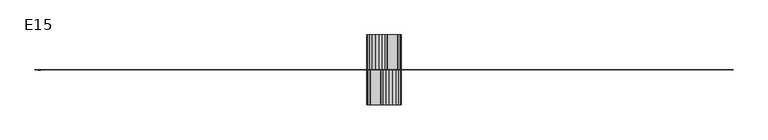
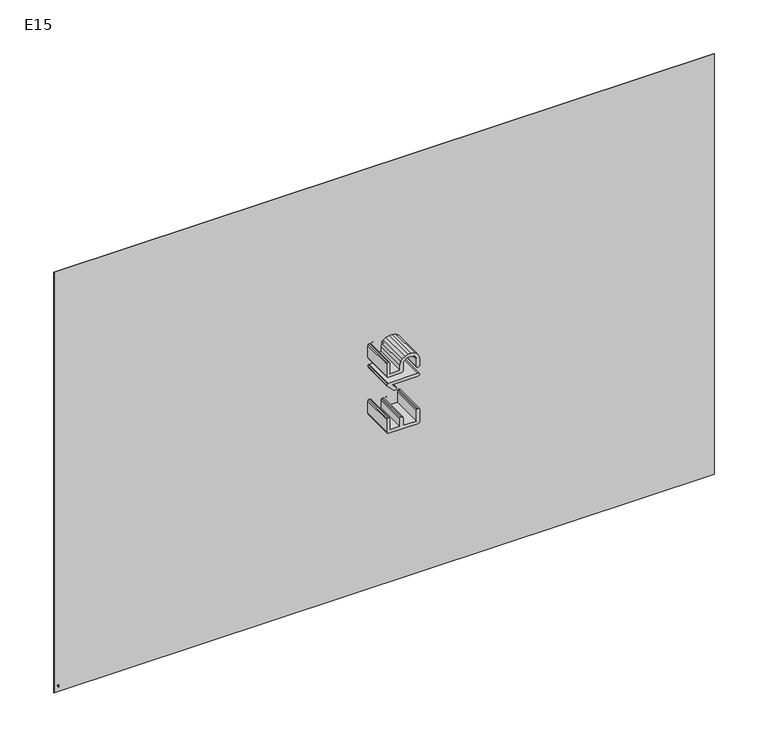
"""IFC4 building model written with IfcOpenShell, lengths in millimetres: proxy geometry, Fire_FireCompartmentationE : E15."""

from ifc_helpers import new_model, si_unit, point, frame, frame_2d, origin, origin_with_axes, place, context, project, spatial, polyline, circle_curve, trimmed, segment, composite_curve, outline, extrude, source, transform, mapped, element, save


def e15_dc09da35(model_context):
    return source(origin(), model_context, "Body", "SweptSolid", [
        extrude(outline(polyline([(3000.0, -0.5), (0.0, -0.5), (0.0, 0.5), (3000.0, 0.5), (3000.0, -0.5)])), origin_with_axes(), (0.0, 0.0, 1.0), 2020.0),
        extrude(outline(composite_curve([segment(trimmed(circle_curve(frame_2d((28.9488523, 20.9372462)), 4.3000253), [point((27.7936078, 25.0791815))], [point((29.724042, 25.1668205))], False, "CARTESIAN"), True, "CONTINUOUS"), segment(trimmed(circle_curve(frame_2d((29.6833004, 19.2917407)), 5.875221), [point((29.724042, 25.1668205))], [point((32.6283278, 24.3755421))], False, "CARTESIAN"), True, "CONTINUOUS"), segment(trimmed(circle_curve(frame_2d((32.8576867, 20.8662932)), 3.5167361), [point((32.6283278, 24.3755421))], [point((30.6249304, 23.5833197))], True, "CARTESIAN"), True, "CONTINUOUS"), segment(trimmed(circle_curve(frame_2d((10.876956, 53.8348059)), 36.1266511), [point((30.6249304, 23.5833197))], [point((25.8949704, 20.9776277))], False, "CARTESIAN"), True, "CONTINUOUS"), segment(trimmed(circle_curve(frame_2d((21.9041848, 33.757735)), 13.3887083), [point((25.8949704, 20.9776277))], [point((22.6832699, 20.3917132))], False, "CARTESIAN"), True, "CONTINUOUS"), segment(trimmed(circle_curve(frame_2d((20.9508608, 39.8789486)), 19.5640891), [point((22.6832699, 20.3917132))], [point((20.0109811, 20.3374489))], False, "CARTESIAN"), True, "CONTINUOUS"), segment(trimmed(circle_curve(frame_2d((18.2722891, 30.1747881)), 9.9898094), [point((20.0109811, 20.3374489))], [point((25.2489423, 23.0247809))], True, "CARTESIAN"), True, "CONTINUOUS"), segment(trimmed(circle_curve(frame_2d((30.9774835, 18.5323372)), 7.2799887), [point((25.2489423, 23.0247809))], [point((27.7936078, 25.0791815))], False, "CARTESIAN"), True, "CONTINUOUS")], self_intersect=False)), frame((0.0, -0.6, 0.0), z_axis=(0.0, 1.0, 0.0), x_axis=(0.0, 0.0, 1.0)), (0.0, 0.0, 1.0), 1.2),
        extrude(outline(composite_curve([segment(trimmed(circle_curve(frame_2d((34.8553456, 17.4656787)), 4.3823741), [point((35.4675373, 21.8050824))], [point((32.7666638, 21.3182897))], True, "CARTESIAN"), True, "CONTINUOUS"), segment(trimmed(circle_curve(frame_2d((31.0348418, 25.2412811)), 4.2882478), [point((32.7666638, 21.3182897))], [point((31.0556823, 20.9530839))], False, "CARTESIAN"), True, "CONTINUOUS"), segment(trimmed(circle_curve(frame_2d((30.8661112, 26.3534755)), 5.4037178), [point((31.0556823, 20.9530839))], [point((28.4262544, 21.5319337))], False, "CARTESIAN"), True, "CONTINUOUS"), segment(trimmed(circle_curve(frame_2d((28.9867579, 26.8058524)), 5.3036197), [point((28.4262544, 21.5319337))], [point((30.6443727, 21.7679267))], True, "CARTESIAN"), True, "CONTINUOUS"), segment(trimmed(circle_curve(frame_2d((33.7648144, 18.2895153)), 4.6729544), [point((30.6443727, 21.7679267))], [point((32.5632515, 22.8053485))], False, "CARTESIAN"), True, "CONTINUOUS"), segment(trimmed(circle_curve(frame_2d((33.1708117, 19.8529583)), 3.0142556), [point((32.5632515, 22.8053485))], [point((35.4675373, 21.8050824))], False, "CARTESIAN"), True, "CONTINUOUS")], self_intersect=False)), frame((0.0, -0.6, 0.0), z_axis=(0.0, 1.0, 0.0), x_axis=(0.0, 0.0, 1.0)), (0.0, 0.0, 1.0), 1.2),
        extrude(outline(composite_curve([segment(trimmed(circle_curve(frame_2d((26.35828, 17.8501973)), 2.1465167), [point((27.6612009, 19.5560492))], [point((26.6135063, 19.9814864))], True, "CARTESIAN"), True, "CONTINUOUS"), segment(trimmed(circle_curve(frame_2d((25.771558, 13.6747037)), 6.3627341), [point((26.6135063, 19.9814864))], [point((25.1811141, 20.0099828))], True, "CARTESIAN"), True, "CONTINUOUS"), segment(trimmed(circle_curve(frame_2d((27.6708438, 15.0485986)), 5.5510437), [point((25.1811141, 20.0099828))], [point((27.8117089, 20.5978547))], False, "CARTESIAN"), True, "CONTINUOUS"), segment(trimmed(circle_curve(frame_2d((27.9681735, 17.2267436)), 3.3747401), [point((27.8117089, 20.5978547))], [point((29.507487, 20.2299728))], False, "CARTESIAN"), True, "CONTINUOUS"), segment(trimmed(circle_curve(frame_2d((31.5381431, 23.6896238)), 4.0115769), [point((29.507487, 20.2299728))], [point((32.2223971, 19.7368341))], True, "CARTESIAN"), True, "CONTINUOUS"), segment(trimmed(circle_curve(frame_2d((29.9256715, 21.6889582)), 3.0142556), [point((32.2223971, 19.7368341))], [point((29.3181113, 18.736568))], False, "CARTESIAN"), True, "CONTINUOUS"), segment(trimmed(circle_curve(frame_2d((30.5170043, 23.2454076)), 4.6655095), [point((29.3181113, 18.736568))], [point((27.6612009, 19.5560492))], False, "CARTESIAN"), True, "CONTINUOUS")], self_intersect=False)), frame((0.0, -0.6, 0.0), z_axis=(0.0, 1.0, 0.0), x_axis=(0.0, 0.0, 1.0)), (0.0, 0.0, 1.0), 1.2),
        extrude(outline(composite_curve([segment(trimmed(circle_curve(frame_2d((32.8467056, 19.4711557)), 3.5167361), [point((30.6139493, 16.7541292))], [point((32.6173467, 15.9619068))], True, "CARTESIAN"), True, "CONTINUOUS"), segment(trimmed(circle_curve(frame_2d((29.6723193, 21.0457082)), 5.875221), [point((32.6173467, 15.9619068))], [point((29.7130609, 15.1706284))], False, "CARTESIAN"), True, "CONTINUOUS"), segment(trimmed(circle_curve(frame_2d((28.9378712, 19.4002026)), 4.3000253), [point((29.7130609, 15.1706284))], [point((27.7826267, 15.2582674))], False, "CARTESIAN"), True, "CONTINUOUS"), segment(trimmed(circle_curve(frame_2d((30.9665024, 21.8051117)), 7.2799887), [point((27.7826267, 15.2582674))], [point((25.2379612, 17.312668))], False, "CARTESIAN"), True, "CONTINUOUS"), segment(trimmed(circle_curve(frame_2d((18.261308, 10.1626608)), 9.9898094), [point((25.2379612, 17.312668))], [point((20.0, 20.0))], True, "CARTESIAN"), True, "CONTINUOUS"), segment(trimmed(circle_curve(frame_2d((20.9398797, 0.4585003)), 19.5640891), [point((20.0, 20.0))], [point((22.6722888, 19.9457357))], False, "CARTESIAN"), True, "CONTINUOUS"), segment(trimmed(circle_curve(frame_2d((21.8932037, 6.5797139)), 13.3887083), [point((22.6722888, 19.9457357))], [point((25.8839893, 19.3598212))], False, "CARTESIAN"), True, "CONTINUOUS"), segment(trimmed(circle_curve(frame_2d((10.8659749, -13.497357)), 36.1266511), [point((25.8839893, 19.3598212))], [point((30.6139493, 16.7541292))], False, "CARTESIAN"), True, "CONTINUOUS")], self_intersect=False)), frame((0.0, -0.6, 0.0), z_axis=(0.0, 1.0, 0.0), x_axis=(0.0, 0.0, 1.0)), (0.0, 0.0, 1.0), 1.2),
        extrude(outline(polyline([(836.1821313, 1432.4519024), (836.1821313, 1566.9452739), (837.9777705, 1572.5342008), (843.3646879, 1574.3971764), (903.0696893, 1574.3971764), (908.6922843, 1572.6015372), (910.5664827, 1567.2146198), (908.6922843, 1561.8277024), (903.0696893, 1560.0320633), (850.5472444, 1560.0320633), (850.5472444, 1514.0637013), (888.0761025, 1514.0637013), (893.6986975, 1512.2680622), (895.5728959, 1506.8811447), (893.6986975, 1501.4942273), (888.0761025, 1499.6985882), (850.5472444, 1499.6985882), (850.5472444, 1439.3651131), (903.0696893, 1439.3651131), (908.6922843, 1437.569474), (910.5664827, 1432.1825566), (908.6922843, 1426.7956391), (903.0696893, 1425.0), (843.3646879, 1425.0), (837.9777705, 1426.8629756), (836.1821313, 1432.4519024)])), frame((0.0, 0.0, 0.0), z_axis=(0.0, 1.0, 0.0), x_axis=(0.0, 0.0, 1.0)), (0.0, 0.0, 1.0), 150.0),
        extrude(outline(polyline([(1063.1509185, 1548.9439916), (1045.9127828, 1531.6609649), (1040.6605383, 1529.5061979), (1035.0379432, 1531.3803962), (1033.1637449, 1537.0029913), (1035.3185119, 1542.2103448), (1064.5874298, 1571.4343718), (1070.3334751, 1574.3971764), (1075.7203925, 1572.5342008), (1077.5160316, 1566.9452739), (1077.5160316, 1432.4519024), (1075.7203925, 1426.8629756), (1070.3334751, 1425.0), (1064.9465577, 1426.8629756), (1063.1509185, 1432.4519024), (1063.1509185, 1548.9439916)])), frame((0.0, 0.0, 0.0), z_axis=(0.0, 1.0, 0.0), x_axis=(0.0, 0.0, 1.0)), (0.0, 0.0, 1.0), 150.0),
        extrude(outline(polyline([(1106.2462579, 1507.1504906), (1106.2462579, 1566.9452739), (1108.2214609, 1572.5342008), (1114.1470701, 1574.3971764), (1169.4527556, 1574.3971764), (1175.0753506, 1572.6015372), (1176.949549, 1567.2146198), (1175.0753506, 1561.8277024), (1169.4527556, 1560.0320633), (1120.611371, 1560.0320633), (1120.611371, 1514.0637013), (1144.3138076, 1514.0637013), (1159.4925697, 1511.3365744), (1172.2584417, 1503.1551935), (1180.9280119, 1491.1468568), (1183.8178687, 1476.9388621), (1183.8178687, 1462.1248392), (1180.9672915, 1447.8326739), (1172.4155601, 1435.8411713), (1159.8685316, 1427.7102928), (1145.0320633, 1425.0), (1114.0123971, 1425.0), (1108.1877927, 1426.7956391), (1106.2462579, 1432.1825566), (1108.2214609, 1437.569474), (1114.1470701, 1439.3651131), (1145.7503189, 1439.3651131), (1154.9136899, 1441.0092452), (1162.5619904, 1445.9416415), (1167.7300643, 1453.2420368), (1169.4527556, 1461.9901663), (1169.4527556, 1477.073535), (1167.7188415, 1485.7655507), (1162.5170994, 1493.0771689), (1154.8575762, 1498.0432334), (1145.7503189, 1499.6985882), (1114.1470701, 1499.6985882), (1108.2214609, 1501.5615638), (1106.2462579, 1507.1504906)])), frame((0.0, 0.0, 0.0), z_axis=(0.0, 1.0, 0.0), x_axis=(0.0, 0.0, 1.0)), (0.0, 0.0, 1.0), 150.0),
        extrude(outline(polyline([(836.1821313, 1567.5480976), (837.9777705, 1573.1370244), (843.3646879, 1575.0), (903.0696893, 1575.0), (908.6922843, 1573.2043609), (910.5664827, 1567.8174434), (908.6922843, 1562.430526), (903.0696893, 1560.6348869), (850.5472444, 1560.6348869), (850.5472444, 1500.3014118), (888.0761025, 1500.3014118), (893.6986975, 1498.5057727), (895.5728959, 1493.1188553), (893.6986975, 1487.7319378), (888.0761025, 1485.9362987), (850.5472444, 1485.9362987), (850.5472444, 1439.9679367), (903.0696893, 1439.9679367), (908.6922843, 1438.1722976), (910.5664827, 1432.7853802), (908.6922843, 1427.3984628), (903.0696893, 1425.6028236), (843.3646879, 1425.6028236), (837.9777705, 1427.4657992), (836.1821313, 1433.0547261), (836.1821313, 1567.5480976)])), frame((0.0, -150.0, 0.0), z_axis=(0.0, 1.0, 0.0), x_axis=(0.0, 0.0, 1.0)), (0.0, 0.0, 1.0), 150.0),
        extrude(outline(polyline([(1063.1509185, 1451.0560084), (1063.1509185, 1567.5480976), (1064.9465577, 1573.1370244), (1070.3334751, 1575.0), (1075.7203925, 1573.1370244), (1077.5160316, 1567.5480976), (1077.5160316, 1433.0547261), (1075.7203925, 1427.4657992), (1070.3334751, 1425.6028236), (1064.5874298, 1428.5656282), (1035.3185119, 1457.7896552), (1033.1637449, 1462.9970087), (1035.0379432, 1468.6196038), (1040.6605383, 1470.4938021), (1045.9127828, 1468.3390351), (1063.1509185, 1451.0560084)])), frame((0.0, -150.0, 0.0), z_axis=(0.0, 1.0, 0.0), x_axis=(0.0, 0.0, 1.0)), (0.0, 0.0, 1.0), 150.0),
        extrude(outline(polyline([(1106.2462579, 1492.8495094), (1108.2214609, 1498.4384362), (1114.1470701, 1500.3014118), (1145.7503189, 1500.3014118), (1154.8575762, 1501.9567666), (1162.5170994, 1506.9228311), (1167.7188415, 1514.2344493), (1169.4527556, 1522.926465), (1169.4527556, 1538.0098337), (1167.7300643, 1546.7579632), (1162.5619904, 1554.0583585), (1154.9136899, 1558.9907548), (1145.7503189, 1560.6348869), (1114.1470701, 1560.6348869), (1108.2214609, 1562.430526), (1106.2462579, 1567.8174434), (1108.1877927, 1573.2043609), (1114.0123971, 1575.0), (1145.0320633, 1575.0), (1159.8685316, 1572.2897072), (1172.4155601, 1564.1588287), (1180.9672915, 1552.1673261), (1183.8178687, 1537.8751608), (1183.8178687, 1523.0611379), (1180.9280119, 1508.8531432), (1172.2584417, 1496.8448065), (1159.4925697, 1488.6634256), (1144.3138076, 1485.9362987), (1120.611371, 1485.9362987), (1120.611371, 1439.9679367), (1169.4527556, 1439.9679367), (1175.0753506, 1438.1722976), (1176.949549, 1432.7853802), (1175.0753506, 1427.3984628), (1169.4527556, 1425.6028236), (1114.1470701, 1425.6028236), (1108.2214609, 1427.4657992), (1106.2462579, 1433.0547261), (1106.2462579, 1492.8495094)])), frame((0.0, -150.0, 0.0), z_axis=(0.0, 1.0, 0.0), x_axis=(0.0, 0.0, 1.0)), (0.0, 0.0, 1.0), 150.0),
    ])


if __name__ == "__main__":
    model = new_model("IFC4")
    model_context = context("Model", 3, world=origin())
    ifc_project = project(units=[si_unit("LENGTHUNIT", "METRE", prefix="MILLI")], contexts=[model_context])
    site = spatial("IfcSite", under=ifc_project)
    building = spatial("IfcBuilding", under=site)
    placement = place(None, origin())
    e15_shape = e15_dc09da35(model_context)
    element("IfcBuildingElementProxy", 1, Name="Fire_FireCompartmentationE : E15", ObjectType="Fire_FireCompartmentationE : E15", at=placement, inside=building, context=model_context, shape_type="MappedRepresentation", body=[
        mapped(e15_shape, transform((0.0, 0.0, 0.0), x_axis=(1.0, 0.0, 0.0), y_axis=(0.0, 1.0, 0.0), z_axis=(0.0, 0.0, 1.0))),
    ])
    save(model, "model.ifc")
